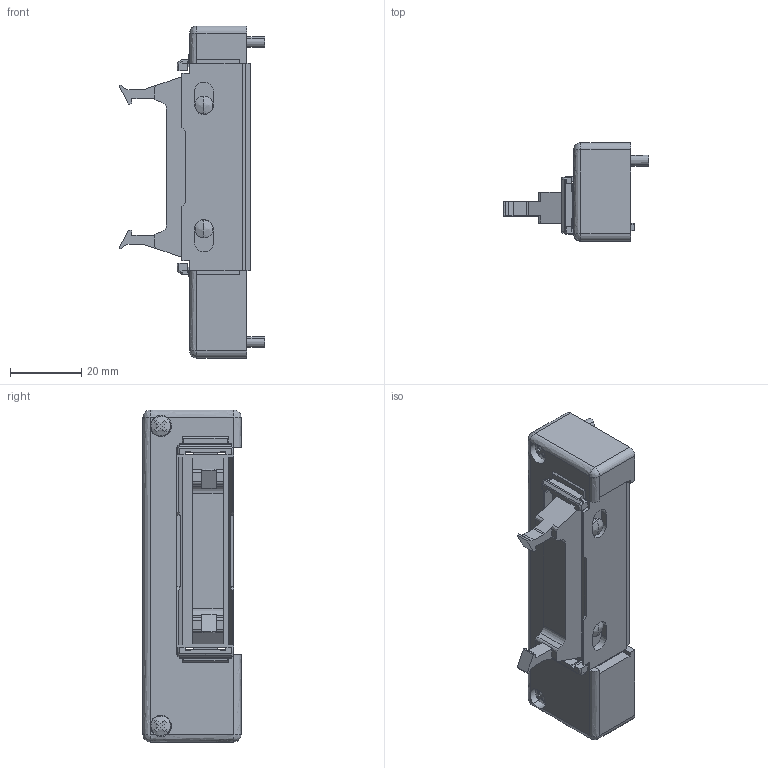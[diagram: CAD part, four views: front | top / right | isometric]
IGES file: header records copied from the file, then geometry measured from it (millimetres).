
Start section: ------------------------------------------------------------------------
Global section: file name: D:\ICADMX\tmp\trans3d_spg\CVICAD32.14756.FZX-F260N-E_10191.igs; native system: spGate; preprocessor: ver12.6.6; author: Unknown; organization: Unknown; date: 200909.091746; units: millimetre
Bounding box: 40.7 x 27.5 x 93 mm (x, y, z)
Volume: 36648.4 mm3; surface area: 14621.5 mm2
Topology: 2 solids, 2 shells, 327 faces, 952 edges, 610 vertices
Faces by surface type: bspline 327
